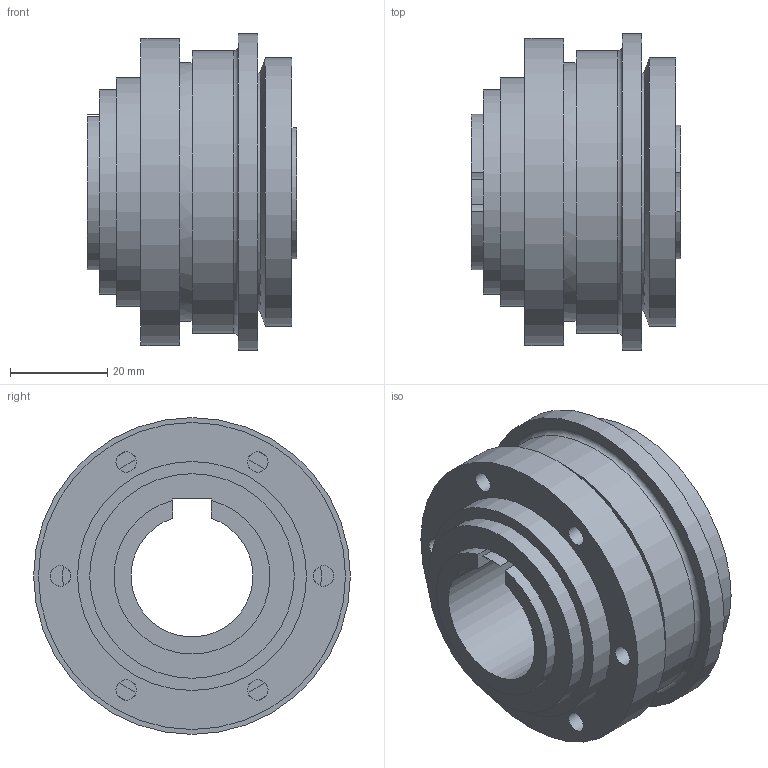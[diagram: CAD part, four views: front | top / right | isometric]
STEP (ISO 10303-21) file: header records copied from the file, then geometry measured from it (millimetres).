
FILE_DESCRIPTION(/* description */ ('STEP AP214'),/* implementation_level */ '2;1');
FILE_NAME(/* name */ 'C:\Diequa Files\DieQua Coupling\THK\STP\THK.30.43.WDG.#.stp',/* time_stamp */ '2019-03-19T11:22:08-05:00',/* author */ ('DiequaCAD'),/* organization */ (''),/* preprocessor_version */ 'ST-DEVELOPER v17.2',/* originating_system */ 'Autodesk Inventor 2019',/* authorisation */ ' ');
FILE_SCHEMA (('AUTOMOTIVE_DESIGN { 1 0 10303 214 3 1 1 }'));
Length unit declared in the file: millimetre
Products named in the file (1): THK.30.43.WDG.#
Bounding box: 43 x 65 x 65 mm (x, y, z)
Volume: 78166.8 mm3; surface area: 19659.7 mm2
Topology: 1 solids, 1 shells, 40 faces, 101 edges, 63 vertices
Faces by surface type: plane 20, cylinder 18, cone 1, torus 1
Full cylindrical faces by diameter (mm): 4.2 x6, 42 x1, 47 x1, 49 x1, 53 x1, 55 x1, 58 x1, 63 x1, 65 x1
Entity records: 1303 total; most frequent: DIRECTION 247, CARTESIAN_POINT 205, ORIENTED_EDGE 202, AXIS2_PLACEMENT_3D 105, EDGE_CURVE 101, CIRCLE 64, VERTEX_POINT 63, EDGE_LOOP 54
